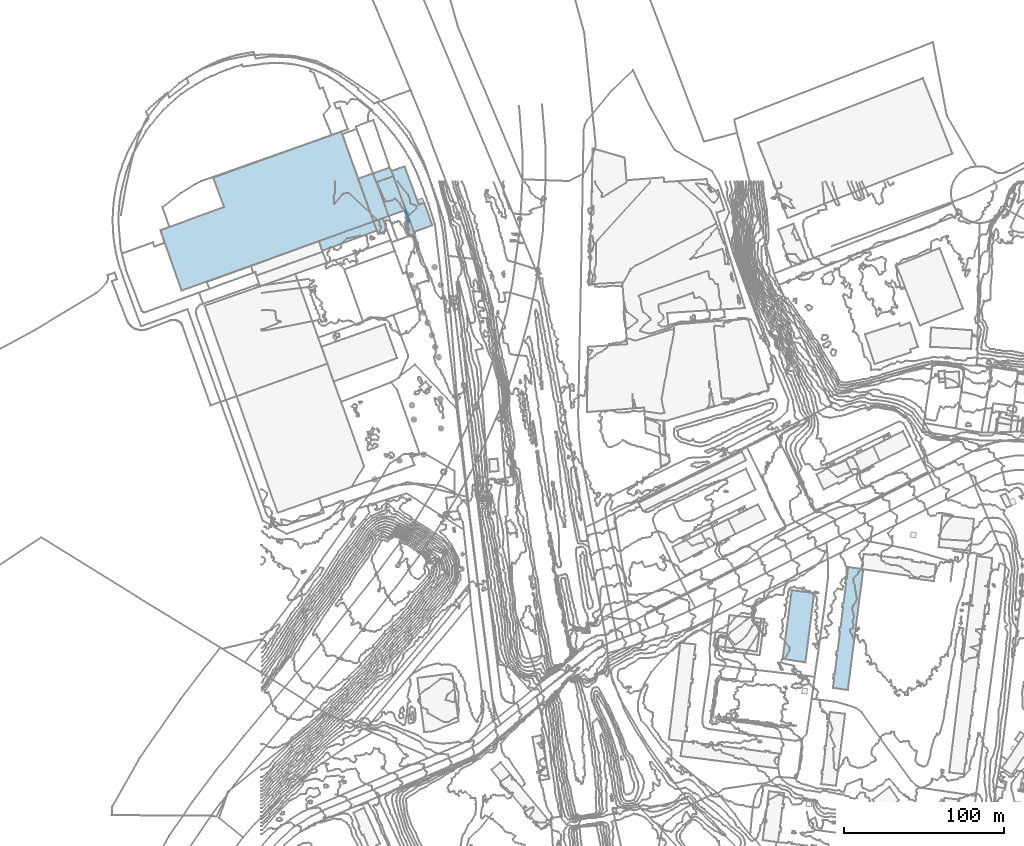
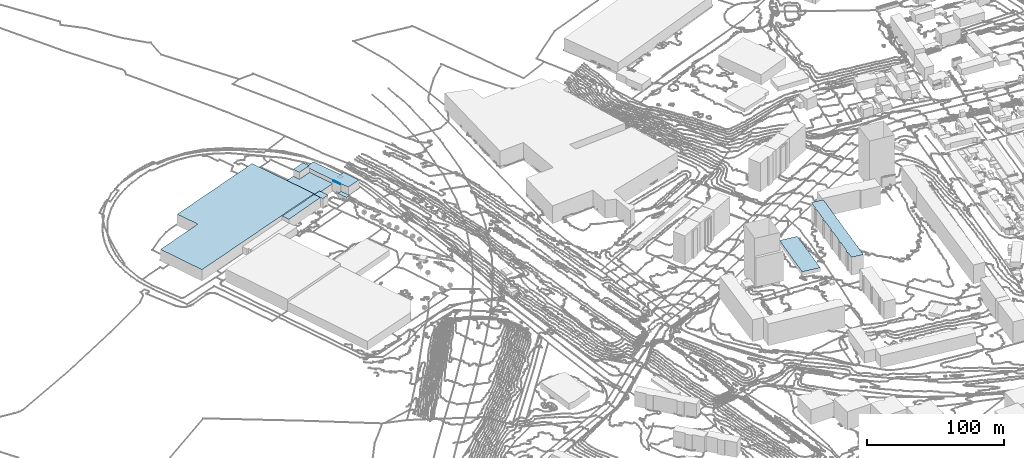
# Not in any storey, part 89 of 419: 11 roofs.
"""IFC2X3 model written with IfcOpenShell, lengths in metres."""

from ifc_helpers import new_model, si_unit, frame, origin_with_axes, place, context, subcontext, project, faceted_brep, element, save


model = new_model("IFC2X3")

# Units and contexts
model_context = context("Model", 3, precision=1e-05, world=origin_with_axes())
body_context = subcontext(model_context, "Body", "Model", "MODEL_VIEW")
ifc_project = project(units=[si_unit("AREAUNIT", "SQUARE_METRE"), si_unit("LENGTHUNIT", "METRE")], contexts=[model_context])

# Roofs
roof_1_placement = place(None, frame((69.6920204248, 1007.3976909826, 20.453999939), z_axis=(0.0, 0.0, 1.0), x_axis=(1.0, 0.0, 0.0)))
element("IfcRoof", 1, at=roof_1_placement, Name="Toiture 0", ShapeType="NOTDEFINED", context=body_context, shape_type="Brep", body=[
    faceted_brep([(5.8, 2.0, 8.746000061), (0.0, 0.0, 8.746000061), (2.9, -7.7999999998, 8.746000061), (8.6, -5.7000000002, 8.746000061)], [[[0, 1, 2]], [[2, 3, 0]]]),
])
roof_2_placement = place(None, frame((88.9920204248, 1006.1976909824, 20.8479997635), z_axis=(0.0, 0.0, 1.0), x_axis=(1.0, 0.0, 0.0)))
element("IfcRoof", 2, at=roof_2_placement, Name="Toiture 0", ShapeType="NOTDEFINED", context=body_context, shape_type="Brep", body=[
    faceted_brep([(6.4, -6.5, 3.3520002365), (3.5, 1.1000000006, 3.3520002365), (0.0, 0.0, 3.3520002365), (2.9, -7.7999999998, 3.3520002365)], [[[0, 1, 2]], [[2, 3, 0]]]),
])
roof_3_placement = place(None, frame((88.8920204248, 1014.3976909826, 21.9880004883), z_axis=(0.0, 0.0, 1.0), x_axis=(1.0, 0.0, 0.0)))
element("IfcRoof", 3, at=roof_3_placement, Name="Toiture 0", ShapeType="NOTDEFINED", context=body_context, shape_type="Brep", body=[
    faceted_brep([(3.6, -7.0999999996, 8.7119995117), (0.8999999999, 0.2999999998, 8.7119995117), (0.0, 0.0, 8.7119995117), (2.7, -7.4000000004, 8.7119995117)], [[[0, 1, 2]], [[2, 3, 0]]]),
])
roof_4_placement = place(None, frame((69.3920204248, 1037.3976909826, 21.7739994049), z_axis=(0.0, 0.0, 1.0), x_axis=(1.0, 0.0, 0.0)))
element("IfcRoof", 4, at=roof_4_placement, Name="Toiture 0", ShapeType="NOTDEFINED", context=body_context, shape_type="Brep", body=[
    faceted_brep([(10.3999999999, 3.7000000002, 11.8260005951), (0.0, 0.0, 11.8260005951), (2.0, -5.5999999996, 11.8260005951), (12.7, -1.7000000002, 11.8260005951)], [[[0, 1, 2]], [[2, 3, 0]]]),
])
roof_5_placement = place(None, frame((324.7920204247, 734.4976909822, 32.9928015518), z_axis=(0.0, 0.0, 1.0), x_axis=(1.0, 0.0, 0.0)))
element("IfcRoof", 5, at=roof_5_placement, Name="Toiture 0", ShapeType="NOTDEFINED", context=body_context, shape_type="Brep", body=[
    faceted_brep([(0.0, 0.0, 3.3071984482), (14.2000000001, -2.0999999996, 3.3071984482), (19.7000000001, 41.0, 3.3071984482), (5.7000000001, 42.9000000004, 3.3071984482)], [[[0, 1, 2]], [[2, 3, 0]]]),
])
roof_6_placement = place(None, frame((96.7920204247, 1020.9976909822, 23.2920000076), z_axis=(0.0, 0.0, 1.0), x_axis=(1.0, 0.0, 0.0)))
element("IfcRoof", 6, at=roof_6_placement, Name="Toiture 0", ShapeType="NOTDEFINED", context=body_context, shape_type="Brep", body=[
    faceted_brep([(3.4, 1.2000000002, 3.9079999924), (0.0, 0.0, 3.9079999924), (1.1000000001, -3.0, 3.9079999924), (4.6000000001, -2.0, 3.9079999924)], [[[0, 1, 2]], [[2, 3, 0]]]),
])
roof_7_placement = place(None, frame((35.5920204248, 995.1976909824, 20.2259994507), z_axis=(0.0, 0.0, 1.0), x_axis=(1.0, 0.0, 0.0)))
element("IfcRoof", 7, at=roof_7_placement, Name="Toiture 0", ShapeType="NOTDEFINED", context=body_context, shape_type="Brep", body=[
    faceted_brep([(36.2, 6.6000000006, 9.0740005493), (34.1, 12.2000000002, 9.0740005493), (0.0, 0.0, 9.0740005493), (2.1, -6.2000000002, 9.0740005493)], [[[0, 1, 2]], [[2, 3, 0]]]),
])
roof_8_placement = place(None, frame((-63.3079795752, 1001.8976909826, 19.9179998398), z_axis=(0.0, 0.0, 1.0), x_axis=(1.0, 0.0, 0.0)))
element("IfcRoof", 8, at=roof_8_placement, Name="Toiture 0", ShapeType="NOTDEFINED", context=body_context, shape_type="Brep", body=[
    faceted_brep([(39.8, 14.5, 10.0820001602), (5.6, 2.0999999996, 10.0820001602), (0.0, 0.0, 10.0820001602), (13.3, -37.5999999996, 10.0820001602), (133.0, 5.5, 10.0820001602), (112.9, 61.5999999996, 10.0820001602), (33.0, 32.7999999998, 10.0820001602)], [[[0, 1, 2]], [[2, 3, 4]], [[4, 5, 6]], [[0, 2, 4]], [[4, 6, 0]]]),
])
roof_9_placement = place(None, frame((356.1920204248, 716.4976909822, 33.1469994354), z_axis=(0.0, 0.0, 1.0), x_axis=(1.0, 0.0, 0.0)))
element("IfcRoof", 9, at=roof_9_placement, Name="Toiture 0", ShapeType="NOTDEFINED", context=body_context, shape_type="Brep", body=[
    faceted_brep([(18.9, 73.9000000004, 16.0530005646), (17.9, 74.1000000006, 16.0530005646), (9.5, 75.3000000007, 16.0530005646), (8.6, 68.0, 16.0530005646), (7.9, 68.0, 16.0530005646), (7.6, 65.5, 16.0530005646), (6.7000000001, 52.9000000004, 16.0530005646), (6.0, 53.0, 16.0530005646), (5.7000000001, 50.4000000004, 16.0530005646), (4.8, 37.7000000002, 16.0530005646), (4.1, 37.8000000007, 16.0530005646), (3.8, 35.2000000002, 16.0530005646), (2.9, 23.0, 16.0530005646), (2.3, 23.1000000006, 16.0530005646), (1.9, 20.6000000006, 16.0530005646), (1.1, 8.4000000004, 16.0530005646), (0.4, 8.5, 16.0530005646), (0.1, 5.9000000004, 16.0530005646), (0.7000000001, 5.8000000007, 16.0530005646), (0.0, 0.0, 16.0530005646), (9.3, -1.3999999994, 16.0530005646), (8.2000000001, 65.4000000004, 16.0530005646), (6.3, 50.3000000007, 16.0530005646), (4.4, 35.1000000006, 16.0530005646), (2.6, 20.5, 16.0530005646)], [[[0, 1, 2]], [[3, 4, 5]], [[6, 7, 8]], [[9, 10, 11]], [[12, 13, 14]], [[15, 16, 17]], [[18, 19, 20]], [[20, 0, 2]], [[3, 5, 21]], [[6, 8, 22]], [[9, 11, 23]], [[12, 14, 24]], [[15, 17, 18]], [[20, 2, 3]], [[3, 21, 6]], [[6, 22, 9]], [[9, 23, 12]], [[15, 18, 20]], [[20, 3, 6]], [[9, 12, 24]], [[24, 15, 20]], [[20, 6, 9]], [[9, 24, 20]]]),
])
roof_10_placement = place(None, frame((59.9920204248, 1034.0976909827, 20.8630004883), z_axis=(0.0, 0.0, 1.0), x_axis=(1.0, 0.0, 0.0)))
element("IfcRoof", 10, at=roof_10_placement, Name="Toiture 0", ShapeType="NOTDEFINED", context=body_context, shape_type="Brep", body=[
    faceted_brep([(9.4, 3.2999999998, 6.7369995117), (0.0, 0.0, 6.7369995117), (9.7, -26.7000000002, 6.7369995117), (29.7999999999, -19.4000000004, 6.7369995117), (22.1, 1.5999999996, 6.7369995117), (11.4, -2.2999999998, 6.7369995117)], [[[0, 1, 2]], [[2, 3, 4]], [[5, 0, 2]], [[2, 4, 5]]]),
])
roof_11_placement = place(None, frame((80.8920204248, 1038.8976909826, 22.8500003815), z_axis=(0.0, 0.0, 1.0), x_axis=(1.0, 0.0, 0.0)))
element("IfcRoof", 11, at=roof_11_placement, Name="Toiture 0", ShapeType="NOTDEFINED", context=body_context, shape_type="Brep", body=[
    faceted_brep([(1.2, -3.2000000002, 8.0499996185), (14.0, -38.0, 8.0499996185), (25.3999999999, -33.7999999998, 8.0499996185), (20.5, -19.9000000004, 8.0499996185), (17.0, -20.9000000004, 8.0499996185), (8.1, 2.9000000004, 8.0499996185), (0.0, 0.0, 8.0499996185)], [[[0, 1, 2]], [[2, 3, 4]], [[4, 5, 6]], [[6, 0, 2]], [[2, 4, 6]]]),
])

save(model, "model.ifc")
